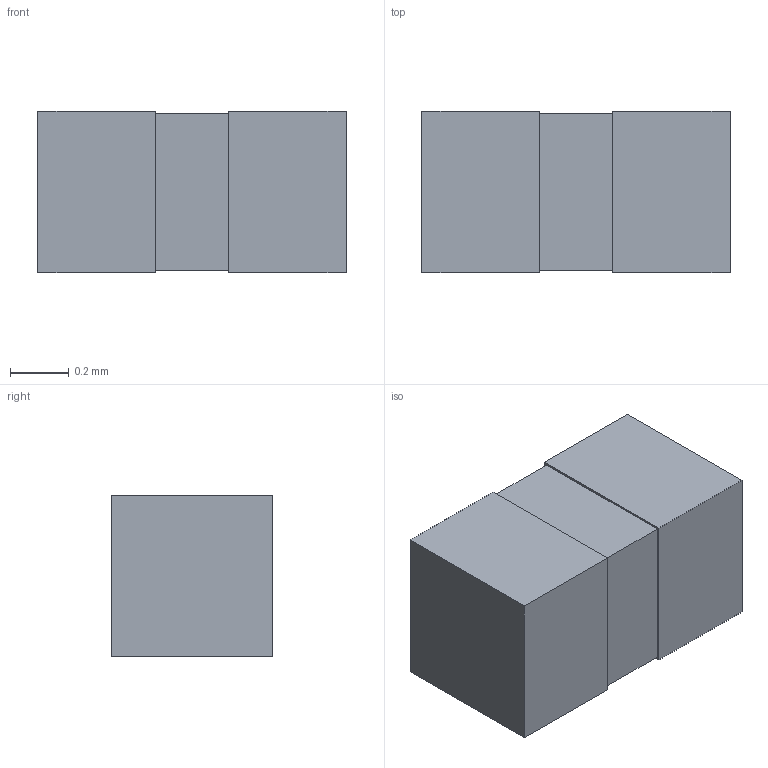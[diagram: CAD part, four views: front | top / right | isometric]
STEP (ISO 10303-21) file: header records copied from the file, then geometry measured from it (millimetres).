
FILE_DESCRIPTION(('STEP AP214'),'1');
FILE_NAME('CAPC10555_55N_KEM-M','2020-10-18T17:32:20',(''),(''),'','','');
FILE_SCHEMA(('AUTOMOTIVE_DESIGN'));
Length unit declared in the file: millimetre
Products named in the file (1): product
Bounding box: 1.05 x 0.55 x 0.55 mm (x, y, z)
Volume: 0.3 mm3; surface area: 4.1 mm2
Topology: 3 solids, 3 shells, 18 faces, 36 edges, 24 vertices
Faces by surface type: plane 18
Entity records: 489 total; most frequent: DIRECTION 74, ORIENTED_EDGE 72, CARTESIAN_POINT 43, EDGE_CURVE 36, LINE 36, VECTOR 36, VERTEX_POINT 24, AXIS2_PLACEMENT_3D 19
